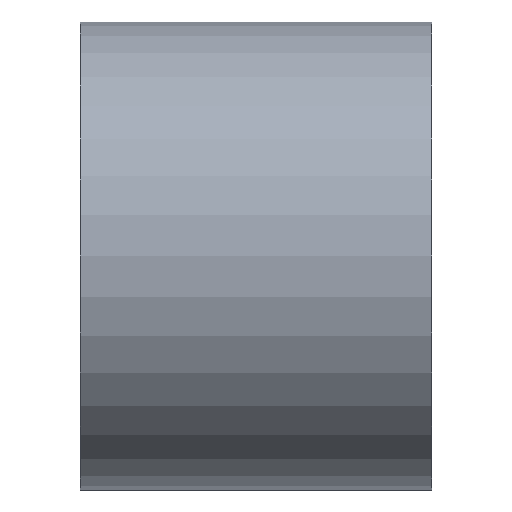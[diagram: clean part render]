
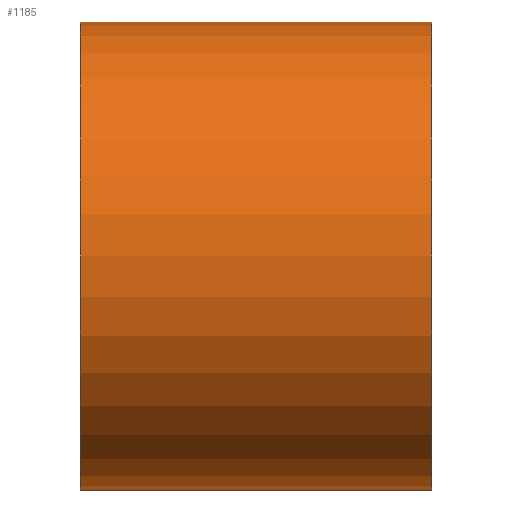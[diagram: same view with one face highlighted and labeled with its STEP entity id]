
A CAD part, front view. The second image highlights one B-rep face of the part: STEP entity #1185.
In plain terms, the highlighted cylindrical face has radius 60 mm (diameter 120 mm), a partial arc.
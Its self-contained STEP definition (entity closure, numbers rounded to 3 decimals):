
#16 = ORIENTED_EDGE ( 'NONE', *, *, #39, .T. ) ;
#39 = EDGE_CURVE ( 'NONE', #40, #126, #639, .T. ) ;
#40 = VERTEX_POINT ( 'NONE', #643 ) ;
#126 = VERTEX_POINT ( 'NONE', #1255 ) ;
#255 = VERTEX_POINT ( 'NONE', #497 ) ;
#272 = EDGE_CURVE ( 'NONE', #1443, #255, #564, .T. ) ;
#409 = ORIENTED_EDGE ( 'NONE', *, *, #1223, .T. ) ;
#426 = EDGE_CURVE ( 'NONE', #255, #126, #1071, .T. ) ;
#444 = ORIENTED_EDGE ( 'NONE', *, *, #272, .F. ) ;
#497 = CARTESIAN_POINT ( 'NONE',  ( 0., 0., -60. ) ) ;
#528 = CARTESIAN_POINT ( 'NONE',  ( 90., 0., -60. ) ) ;
#564 = LINE ( 'NONE', #565, #566 ) ;
#565 = CARTESIAN_POINT ( 'NONE',  ( 0., 0., -60. ) ) ;
#566 = VECTOR ( 'NONE', #567, 1000. ) ;
#567 = DIRECTION ( 'NONE',  ( -1., 0., 0. ) ) ;
#639 = LINE ( 'NONE', #640, #641 ) ;
#640 = CARTESIAN_POINT ( 'NONE',  ( 0., 0., 60. ) ) ;
#641 = VECTOR ( 'NONE', #642, 1000. ) ;
#642 = DIRECTION ( 'NONE',  ( -1., 0., 0. ) ) ;
#643 = CARTESIAN_POINT ( 'NONE',  ( 90., 0., 60. ) ) ;
#695 = FACE_OUTER_BOUND ( 'NONE', #952, .T. ) ;
#696 = CYLINDRICAL_SURFACE ( 'NONE', #697, 60. ) ;
#697 = AXIS2_PLACEMENT_3D ( 'NONE', #698, #699, #700 ) ;
#698 = CARTESIAN_POINT ( 'NONE',  ( 0., 0., 0. ) ) ;
#699 = DIRECTION ( 'NONE',  ( -1., 0., 0. ) ) ;
#700 = DIRECTION ( 'NONE',  ( 0., 0., 1. ) ) ;
#754 = CIRCLE ( 'NONE', #755, 60. ) ;
#755 = AXIS2_PLACEMENT_3D ( 'NONE', #756, #757, #758 ) ;
#756 = CARTESIAN_POINT ( 'NONE',  ( 90., 0., 0. ) ) ;
#757 = DIRECTION ( 'NONE',  ( -1., 0., 0. ) ) ;
#758 = DIRECTION ( 'NONE',  ( 0., 0., 1. ) ) ;
#790 = ORIENTED_EDGE ( 'NONE', *, *, #426, .F. ) ;
#952 = EDGE_LOOP ( 'NONE', ( #444, #409, #16, #790 ) ) ;
#1071 = CIRCLE ( 'NONE', #1072, 60. ) ;
#1072 = AXIS2_PLACEMENT_3D ( 'NONE', #1073, #1074, #1075 ) ;
#1073 = CARTESIAN_POINT ( 'NONE',  ( 0., 0., 0. ) ) ;
#1074 = DIRECTION ( 'NONE',  ( -1., 0., 0. ) ) ;
#1075 = DIRECTION ( 'NONE',  ( 0., 0., 1. ) ) ;
#1185 = ADVANCED_FACE ( 'NONE', ( #695 ), #696, .T. ) ;
#1223 = EDGE_CURVE ( 'NONE', #1443, #40, #754, .T. ) ;
#1255 = CARTESIAN_POINT ( 'NONE',  ( 0., 0., 60. ) ) ;
#1443 = VERTEX_POINT ( 'NONE', #528 ) ;
